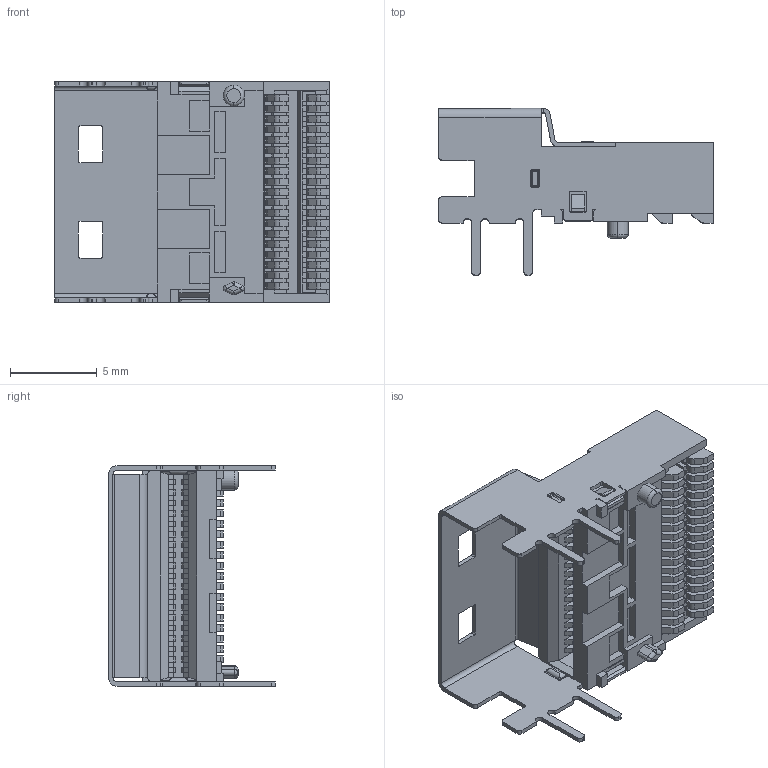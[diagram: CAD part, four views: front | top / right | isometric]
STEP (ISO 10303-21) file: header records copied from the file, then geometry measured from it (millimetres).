
FILE_DESCRIPTION((''),'2;1');
FILE_NAME('PSL060-3843-T2A-1H_CUSTOMER','2026-07-11T11:43:01',('31000862'),(''),'CREO PARAMETRIC BY PTC INC, 2022244','CREO PARAMETRIC BY PTC INC, 2022244','');
FILE_SCHEMA(('AUTOMOTIVE_DESIGN { 1 0 10303 214 1 1 1 1 }'));
Length unit declared in the file: millimetre
Products named in the file (1): PSL060-3843-T2A-1H_CUSTOMER
Bounding box: 15.8 x 9.6 x 12.76 mm (x, y, z)
Volume: 421.7 mm3; surface area: 1294.6 mm2
Topology: 1 solids, 1 shells, 1123 faces, 3105 edges, 1986 vertices
Faces by surface type: plane 821, cylinder 264, bspline 20, torus 10, sphere 8
Entity records: 36480 total; most frequent: CARTESIAN_POINT 7544, ORIENTED_EDGE 6194, DIRECTION 5762, EDGE_CURVE 3097, VECTOR 2528, LINE 2528, VERTEX_POINT 1986, AXIS2_PLACEMENT_3D 1617
